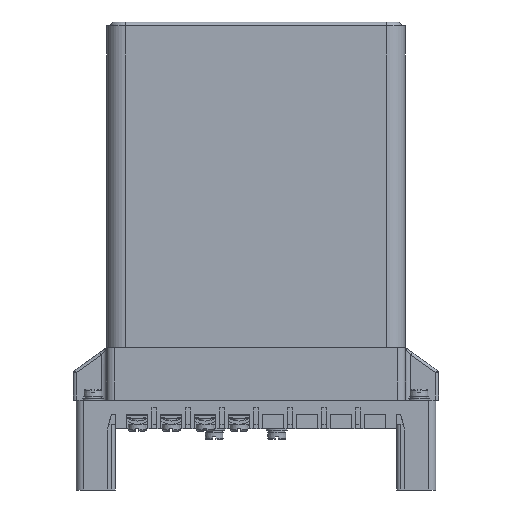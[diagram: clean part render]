
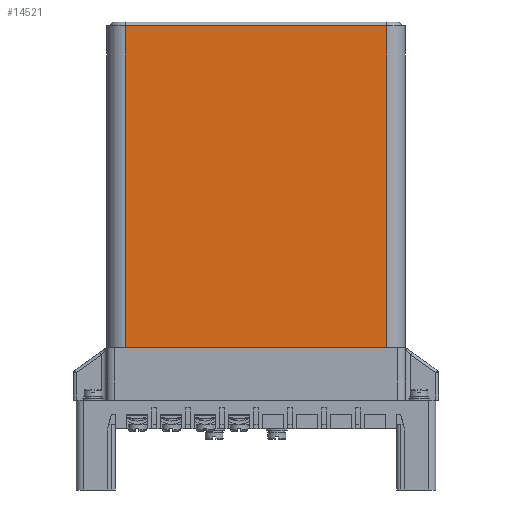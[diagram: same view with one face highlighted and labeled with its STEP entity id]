
A CAD part, left-side view. The second image highlights one B-rep face of the part: STEP entity #14521.
In plain terms, the highlighted planar face has unit normal (-1, 0, 0).
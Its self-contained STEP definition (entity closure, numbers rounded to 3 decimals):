
#14521=ADVANCED_FACE('',(#50477),#50479,.T.);
#50477=FACE_BOUND('',#50478,.T.);
#50478=EDGE_LOOP('',(#78735,#78736,#78737,#78738));
#50479=PLANE('',#50480);
#50480=AXIS2_PLACEMENT_3D('',#50481,#50482,#50483);
#50481=CARTESIAN_POINT('',(-32.15,50.15,31.5));
#50482=DIRECTION('',(-1.,0.,0.));
#50483=DIRECTION('',(0.,-1.,0.));
#78735=ORIENTED_EDGE('',*,*,#94139,.T.);
#78736=ORIENTED_EDGE('',*,*,#94670,.T.);
#78737=ORIENTED_EDGE('',*,*,#94671,.F.);
#78738=ORIENTED_EDGE('',*,*,#94672,.F.);
#94139=EDGE_CURVE('',#107217,#107215,#107218,.T.);
#94670=EDGE_CURVE('',#107215,#108110,#108112,.T.);
#94671=EDGE_CURVE('',#108113,#108110,#108114,.T.);
#94672=EDGE_CURVE('',#107217,#108113,#108115,.T.);
#107215=VERTEX_POINT('',#133620);
#107217=VERTEX_POINT('',#133625);
#107218=LINE('',#133626,#133627);
#108110=VERTEX_POINT('',#136311);
#108112=LINE('',#136316,#136317);
#108113=VERTEX_POINT('',#136319);
#108114=LINE('',#136320,#136321);
#108115=LINE('',#136323,#136324);
#133620=CARTESIAN_POINT('',(-32.15,-50.15,31.5));
#133625=CARTESIAN_POINT('',(-32.15,50.15,31.5));
#133626=CARTESIAN_POINT('',(-32.15,50.15,31.5));
#133627=VECTOR('',#133628,1.);
#133628=DIRECTION('',(0.,-1.,0.));
#136311=CARTESIAN_POINT('',(-32.15,-50.15,155.));
#136316=CARTESIAN_POINT('',(-32.15,-50.15,31.5));
#136317=VECTOR('',#136318,1.);
#136318=DIRECTION('',(0.,0.,1.));
#136319=CARTESIAN_POINT('',(-32.15,50.15,155.));
#136320=CARTESIAN_POINT('',(-32.15,50.15,155.));
#136321=VECTOR('',#136322,1.);
#136322=DIRECTION('',(0.,-1.,0.));
#136323=CARTESIAN_POINT('',(-32.15,50.15,31.5));
#136324=VECTOR('',#136325,1.);
#136325=DIRECTION('',(0.,0.,1.));
